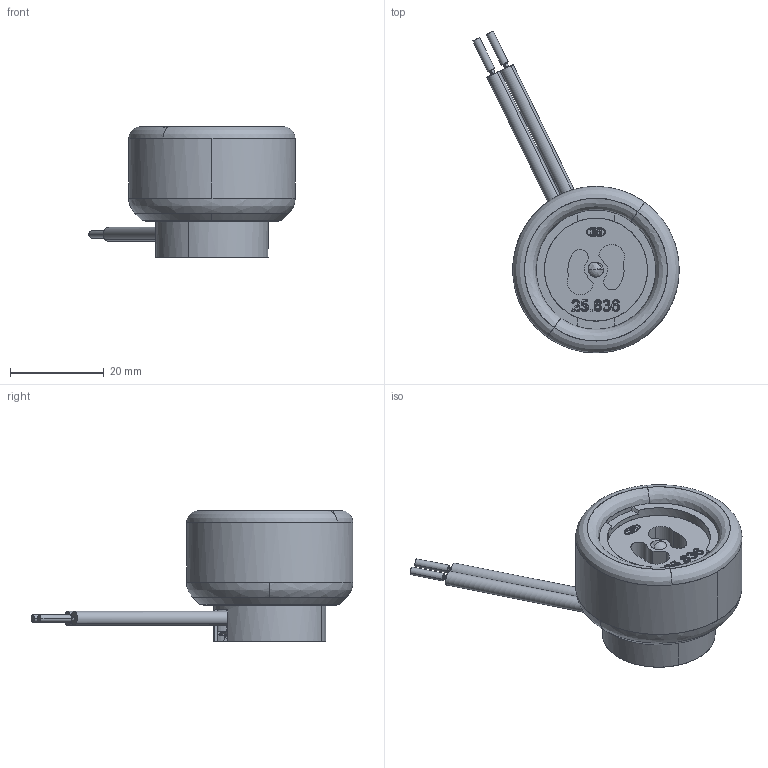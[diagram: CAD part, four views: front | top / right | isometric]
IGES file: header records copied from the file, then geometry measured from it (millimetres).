
Global section: file name: C:\Programme\core_technologie\in\013YQ13Y04.igs; native system: CT CoreTechnologie 3D Evolution; preprocessor: 2006; author: assmuth; date: 081001.084304; units: millimetre
Bounding box: 44.01 x 68.68 x 27.9 mm (x, y, z)
Surface area: 11892.7 mm2 (no closed solid volume)
Topology: 0 solids, 0 shells, 360 faces, 1746 edges, 1695 vertices
Faces by surface type: bspline 360
